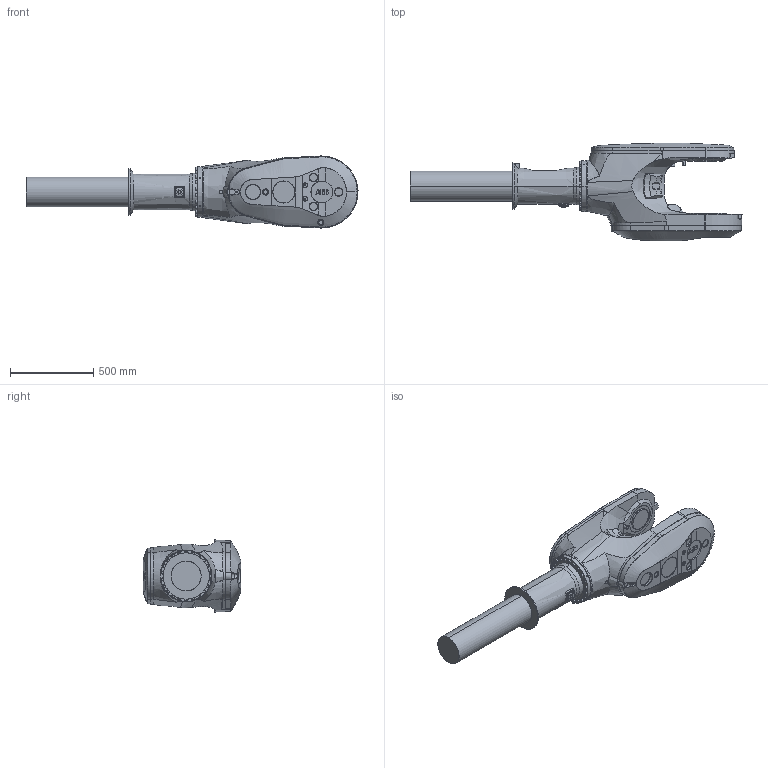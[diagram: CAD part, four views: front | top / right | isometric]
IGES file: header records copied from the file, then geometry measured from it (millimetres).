
Start section: SolidWorks IGES file using analytic representation for surfaces
Global section: file name: B:\DM\Robotics\SEROP_PROJ\Product Development\DevelopmentProjects\HD\3_Design PRMD\4_Struktur SAP o CAD\Lättmodeller\IRB8700-MH3_800-350\IRB8700-MH3_800-350_IRC5_IGES_j\IRB8700-MH3_800-350_IRC5_rev00_LINK4_CAD.IGS; native system: SolidWorks 2014; preprocessor: SolidWorks 2014; author: sepehak; date: 150604.101938; units: millimetre
Bounding box: 1993.31 x 585.67 x 432.82 mm (x, y, z)
Surface area: 2494108.7 mm2 (no closed solid volume)
Topology: 0 solids, 0 shells, 618 faces, 12455 edges, 12443 vertices
Faces by surface type: bspline 335, revolution 283
